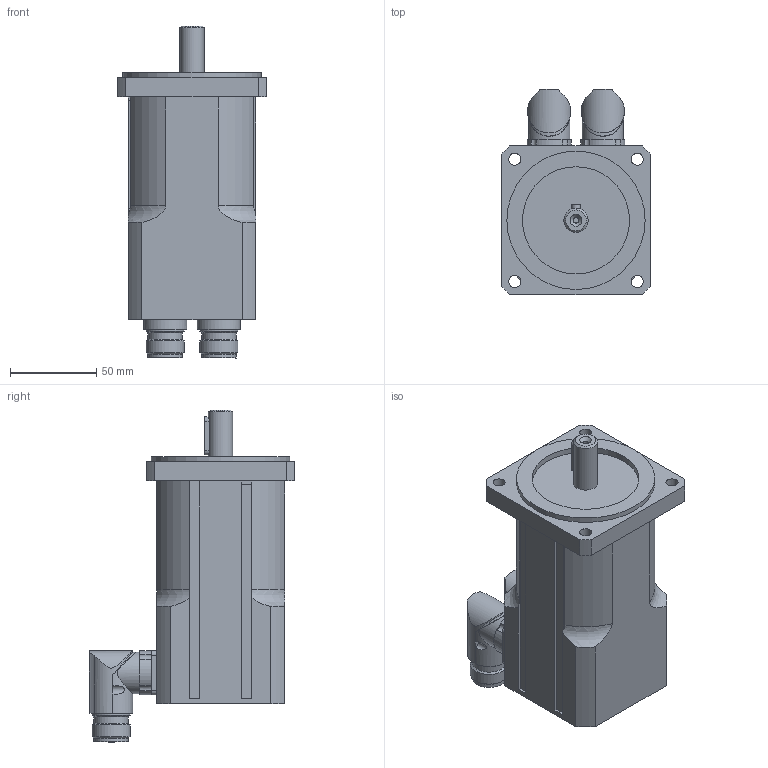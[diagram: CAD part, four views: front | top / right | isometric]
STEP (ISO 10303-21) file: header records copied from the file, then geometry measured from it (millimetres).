
FILE_DESCRIPTION(/* description */ ('Alibre Inc.'),/* implementation_level */ '2;1');
FILE_NAME(/* name */ 'export0',/* time_stamp */ '2011-07-29T11:47:00+02:00',/* author */ (''),/* organization */ (''),/* preprocessor_version */ 'ST-DEVELOPER v12',/* originating_system */ 'Alibre',/* authorisation */ '');
FILE_SCHEMA (('AUTOMOTIVE_DESIGN'));
Length unit declared in the file: millimetre
Products named in the file (5): ID_1; ID_2
Bounding box: 86 x 119 x 192 mm (x, y, z)
Volume: 784448.7 mm3; surface area: 87379.2 mm2
Topology: 5 solids, 5 shells, 195 faces, 492 edges, 320 vertices
Faces by surface type: plane 86, cylinder 77, bspline 21, cone 7, torus 4
Full cylindrical faces by diameter (mm): 2.7 x8, 14 x1, 20 x6, 22 x4, 24 x2, 62 x1, 80 x1
Entity records: 4995 total; most frequent: CARTESIAN_POINT 1732, ORIENTED_EDGE 630, DIRECTION 606, EDGE_CURVE 315, AXIS2_PLACEMENT_3D 257, VERTEX_POINT 221, EDGE_LOOP 188, FACE_BOUND 188
